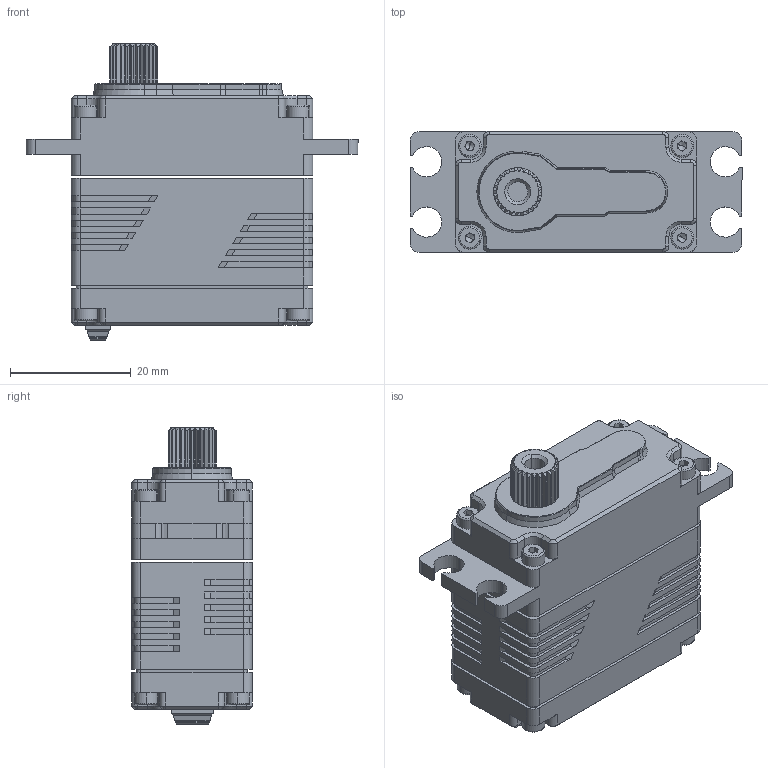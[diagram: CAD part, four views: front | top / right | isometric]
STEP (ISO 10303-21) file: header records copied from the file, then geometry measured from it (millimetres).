
FILE_DESCRIPTION (( 'STEP AP214' ), '1' );
FILE_NAME ('HV7010_DM_20231008.STEP', '2023-10-08T09:09:33', ( '' ), ( '' ), 'SwSTEP 2.0', 'SolidWorks 2016', '' );
FILE_SCHEMA (( 'AUTOMOTIVE_DESIGN' ));
Length unit declared in the file: millimetre
Products named in the file (1): HV7010_DM_20231008
Bounding box: 55 x 20 x 49.1 mm (x, y, z)
Surface area: 8290.3 mm2 (no closed solid volume)
Topology: 0 solids, 16 shells, 676 faces, 1977 edges, 1286 vertices
Faces by surface type: plane 400, cylinder 178, cone 82, torus 16
Entity records: 29639 total; most frequent: CARTESIAN_POINT 4089, DIRECTION 3826, ORIENTED_EDGE 3693, EDGE_CURVE 1961, LINE 1340, VECTOR 1340, VERTEX_POINT 1286, AXIS2_PLACEMENT_3D 1243
